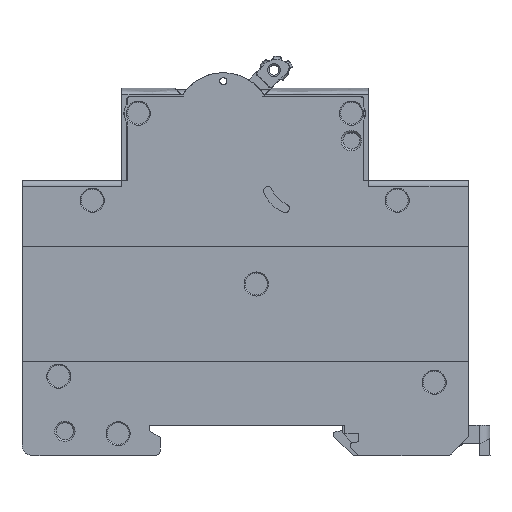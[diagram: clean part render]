
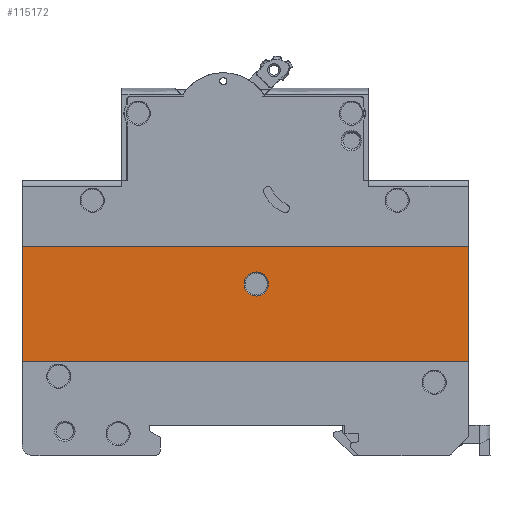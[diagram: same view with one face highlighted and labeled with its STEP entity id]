
A CAD part, left-side view. The second image highlights one B-rep face of the part: STEP entity #115172.
In plain terms, the highlighted planar face has unit normal (-1, 0, 0).
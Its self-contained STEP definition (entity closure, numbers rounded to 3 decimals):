
#104 = CARTESIAN_POINT ( 'NONE',  ( -0.8, 81.5, -12.005 ) ) ;
#8344 = CIRCLE ( 'NONE', #81724, 2.2 ) ;
#10966 = DIRECTION ( 'NONE',  ( 0., -1., 0. ) ) ;
#11725 = DIRECTION ( 'NONE',  ( 0., 0., -1. ) ) ;
#14486 = PLANE ( 'NONE',  #87541 ) ;
#14909 = CARTESIAN_POINT ( 'NONE',  ( -0.8, 36.523, -18.864 ) ) ;
#17790 = ORIENTED_EDGE ( 'NONE', *, *, #105012, .T. ) ;
#24986 = CARTESIAN_POINT ( 'NONE',  ( -0.8, 81.5, -33.005 ) ) ;
#25032 = CARTESIAN_POINT ( 'NONE',  ( -0.8, 0., -12.005 ) ) ;
#30459 = DIRECTION ( 'NONE',  ( 0., 1., 0. ) ) ;
#32433 = ORIENTED_EDGE ( 'NONE', *, *, #89116, .F. ) ;
#35185 = CARTESIAN_POINT ( 'NONE',  ( -0.8, 81.5, -33.005 ) ) ;
#36098 = CARTESIAN_POINT ( 'NONE',  ( -0.8, 40.923, -18.864 ) ) ;
#36153 = CARTESIAN_POINT ( 'NONE',  ( -0.8, 81.5, -12.005 ) ) ;
#38873 = DIRECTION ( 'NONE',  ( 0., 1., 0. ) ) ;
#48237 = FACE_BOUND ( 'NONE', #112207, .T. ) ;
#50518 = CIRCLE ( 'NONE', #78606, 2.2 ) ;
#52507 = VERTEX_POINT ( 'NONE', #14909 ) ;
#54079 = LINE ( 'NONE', #24986, #75032 ) ;
#54356 = ORIENTED_EDGE ( 'NONE', *, *, #96506, .F. ) ;
#54562 = EDGE_CURVE ( 'NONE', #99679, #75686, #92070, .T. ) ;
#55391 = DIRECTION ( 'NONE',  ( 0., 0., 1. ) ) ;
#56419 = FACE_OUTER_BOUND ( 'NONE', #89429, .T. ) ;
#59162 = CARTESIAN_POINT ( 'NONE',  ( -0.8, 38.723, -18.864 ) ) ;
#61545 = CARTESIAN_POINT ( 'NONE',  ( -0.8, 0., -33.005 ) ) ;
#66346 = VECTOR ( 'NONE', #10966, 1000. ) ;
#67873 = DIRECTION ( 'NONE',  ( 0., 1., 0. ) ) ;
#70383 = DIRECTION ( 'NONE',  ( 0., 1., 0. ) ) ;
#71056 = LINE ( 'NONE', #61545, #89098 ) ;
#74748 = ORIENTED_EDGE ( 'NONE', *, *, #120431, .T. ) ;
#75032 = VECTOR ( 'NONE', #55391, 1000. ) ;
#75686 = VERTEX_POINT ( 'NONE', #25032 ) ;
#75688 = ORIENTED_EDGE ( 'NONE', *, *, #54562, .F. ) ;
#78606 = AXIS2_PLACEMENT_3D ( 'NONE', #79851, #132559, #30459 ) ;
#79851 = CARTESIAN_POINT ( 'NONE',  ( -0.8, 38.723, -18.864 ) ) ;
#81724 = AXIS2_PLACEMENT_3D ( 'NONE', #59162, #123349, #38873 ) ;
#84067 = CARTESIAN_POINT ( 'NONE',  ( -0.8, 0., -12.005 ) ) ;
#84643 = VERTEX_POINT ( 'NONE', #35185 ) ;
#87541 = AXIS2_PLACEMENT_3D ( 'NONE', #97654, #118604, #67873 ) ;
#89098 = VECTOR ( 'NONE', #70383, 1000. ) ;
#89116 = EDGE_CURVE ( 'NONE', #106320, #84643, #71056, .T. ) ;
#89429 = EDGE_LOOP ( 'NONE', ( #32433, #99387, #75688, #54356 ) ) ;
#92070 = LINE ( 'NONE', #104, #66346 ) ;
#92186 = LINE ( 'NONE', #84067, #94224 ) ;
#94224 = VECTOR ( 'NONE', #11725, 1000. ) ;
#96506 = EDGE_CURVE ( 'NONE', #84643, #99679, #54079, .T. ) ;
#97654 = CARTESIAN_POINT ( 'NONE',  ( -0.8, 0., -34.08 ) ) ;
#99387 = ORIENTED_EDGE ( 'NONE', *, *, #107412, .F. ) ;
#99679 = VERTEX_POINT ( 'NONE', #36153 ) ;
#105012 = EDGE_CURVE ( 'NONE', #113069, #52507, #50518, .T. ) ;
#106320 = VERTEX_POINT ( 'NONE', #126617 ) ;
#107412 = EDGE_CURVE ( 'NONE', #75686, #106320, #92186, .T. ) ;
#112207 = EDGE_LOOP ( 'NONE', ( #74748, #17790 ) ) ;
#113069 = VERTEX_POINT ( 'NONE', #36098 ) ;
#115172 = ADVANCED_FACE ( 'NONE', ( #56419, #48237 ), #14486, .F. ) ;
#118604 = DIRECTION ( 'NONE',  ( 1., 0., 0. ) ) ;
#120431 = EDGE_CURVE ( 'NONE', #52507, #113069, #8344, .T. ) ;
#123349 = DIRECTION ( 'NONE',  ( 1., 0., 0. ) ) ;
#126617 = CARTESIAN_POINT ( 'NONE',  ( -0.8, 0., -33.005 ) ) ;
#132559 = DIRECTION ( 'NONE',  ( 1., 0., 0. ) ) ;
